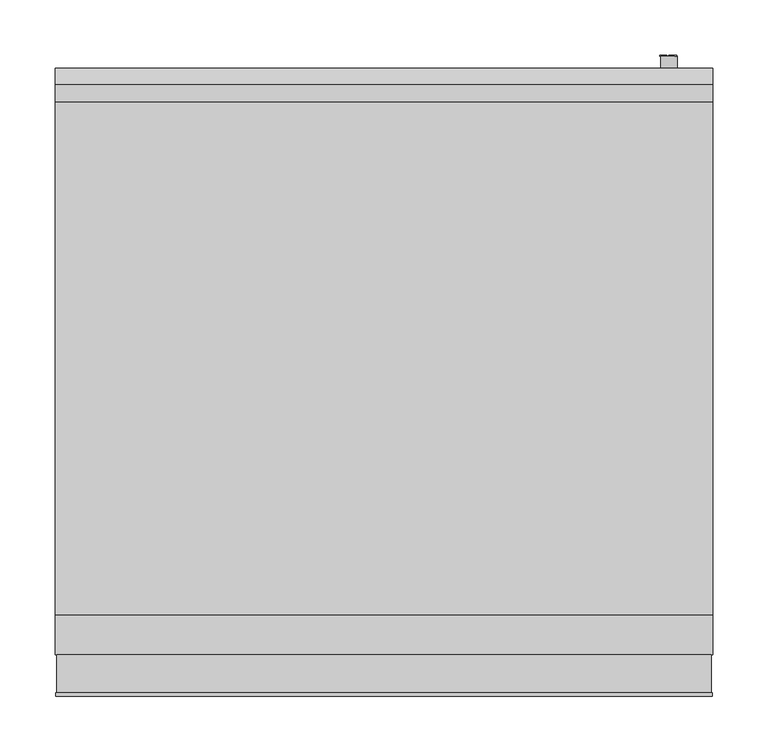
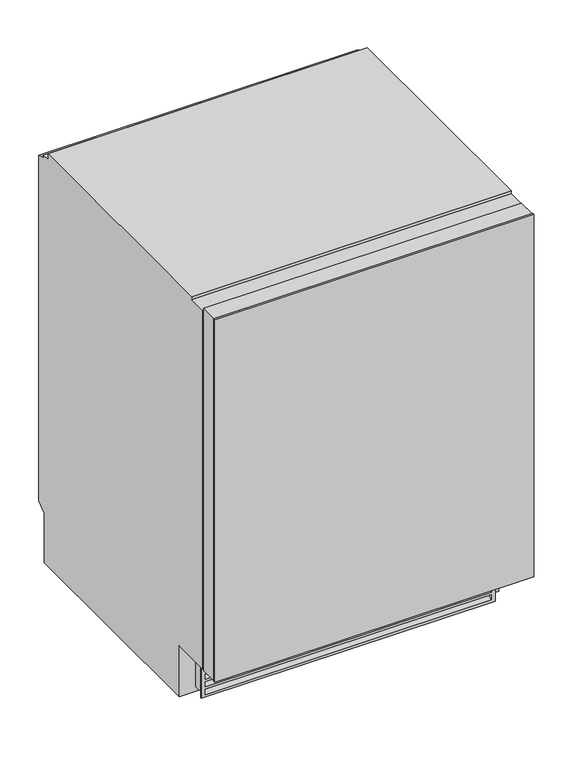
"""IFC4 building model written with IfcOpenShell, lengths in millimetres: proxy geometry, 12497050_GB_KWT6322UG-1 : 36632202_GB_12497050_KWT6322UG-1."""

from ifc_helpers import new_model, si_unit, point, frame, frame_2d, origin, origin_with_axes, place, context, project, spatial, polyline, circle_curve, ellipse_curve, trimmed, segment, composite_curve, outline, extrude, faceted_brep, source, transform, mapped, element, save
from ifc_brep_helpers import plane_surface, revolved_surface, advanced_brep


def specialty_equipment_e1f332ee(model_context):
    return source(origin(), model_context, "Body", "SolidModel", [
        extrude(outline(composite_curve([segment(polyline([(376.6, -231.5), (376.6, -246.5), (367.2, -246.5), (367.2, -226.5), (371.6, -226.5)]), True, "CONTINUOUS"), segment(trimmed(circle_curve(frame_2d((371.6, -231.5)), 5.0), [point((371.6, -226.5))], [point((376.6, -231.5))], False, "CARTESIAN"), True, "CONTINUOUS")], self_intersect=False)), frame((0.0, 44.0, 0.0), z_axis=(0.0, 1.0, 0.0), x_axis=(0.0, 0.0, 1.0)), (0.0, 0.0, 1.0), 329.5),
        extrude(outline(composite_curve([segment(polyline([(376.6, -59.5), (376.6, -69.5)]), True, "CONTINUOUS"), segment(trimmed(circle_curve(frame_2d((371.6, -69.5)), 5.0), [point((376.6, -69.5))], [point((371.6, -74.5))], False, "CARTESIAN"), True, "CONTINUOUS"), segment(polyline([(371.6, -74.5), (367.2, -74.5), (367.2, -54.5), (371.6, -54.5)]), True, "CONTINUOUS"), segment(trimmed(circle_curve(frame_2d((371.6, -59.5)), 5.0), [point((371.6, -54.5))], [point((376.6, -59.5))], False, "CARTESIAN"), True, "CONTINUOUS")], self_intersect=False)), frame((0.0, 44.0, 0.0), z_axis=(0.0, 1.0, 0.0), x_axis=(0.0, 0.0, 1.0)), (0.0, 0.0, 1.0), 329.5),
        extrude(outline(composite_curve([segment(polyline([(376.6, -102.5), (376.6, -112.5)]), True, "CONTINUOUS"), segment(trimmed(circle_curve(frame_2d((371.6, -112.5)), 5.0), [point((376.6, -112.5))], [point((371.6, -117.5))], False, "CARTESIAN"), True, "CONTINUOUS"), segment(polyline([(371.6, -117.5), (367.2, -117.5), (367.2, -97.5), (371.6, -97.5)]), True, "CONTINUOUS"), segment(trimmed(circle_curve(frame_2d((371.6, -102.5)), 5.0), [point((371.6, -97.5))], [point((376.6, -102.5))], False, "CARTESIAN"), True, "CONTINUOUS")], self_intersect=False)), frame((0.0, 44.0, 0.0), z_axis=(0.0, 1.0, 0.0), x_axis=(0.0, 0.0, 1.0)), (0.0, 0.0, 1.0), 329.5),
        extrude(outline(composite_curve([segment(polyline([(376.6, -145.5), (376.6, -155.5)]), True, "CONTINUOUS"), segment(trimmed(circle_curve(frame_2d((371.6, -155.5)), 5.0), [point((376.6, -155.5))], [point((371.6, -160.5))], False, "CARTESIAN"), True, "CONTINUOUS"), segment(polyline([(371.6, -160.5), (367.2, -160.5), (367.2, -140.5), (371.6, -140.5)]), True, "CONTINUOUS"), segment(trimmed(circle_curve(frame_2d((371.6, -145.5)), 5.0), [point((371.6, -140.5))], [point((376.6, -145.5))], False, "CARTESIAN"), True, "CONTINUOUS")], self_intersect=False)), frame((0.0, 44.0, 0.0), z_axis=(0.0, 1.0, 0.0), x_axis=(0.0, 0.0, 1.0)), (0.0, 0.0, 1.0), 329.5),
        extrude(outline(composite_curve([segment(polyline([(376.6, -188.5), (376.6, -198.5)]), True, "CONTINUOUS"), segment(trimmed(circle_curve(frame_2d((371.6, -198.5)), 5.0), [point((376.6, -198.5))], [point((371.6, -203.5))], False, "CARTESIAN"), True, "CONTINUOUS"), segment(polyline([(371.6, -203.5), (367.2, -203.5), (367.2, -183.5), (371.6, -183.5)]), True, "CONTINUOUS"), segment(trimmed(circle_curve(frame_2d((371.6, -188.5)), 5.0), [point((371.6, -183.5))], [point((376.6, -188.5))], False, "CARTESIAN"), True, "CONTINUOUS")], self_intersect=False)), frame((0.0, 44.0, 0.0), z_axis=(0.0, 1.0, 0.0), x_axis=(0.0, 0.0, 1.0)), (0.0, 0.0, 1.0), 329.5),
        extrude(outline(composite_curve([segment(polyline([(376.6, 69.5), (376.6, 59.5)]), True, "CONTINUOUS"), segment(trimmed(circle_curve(frame_2d((371.6, 59.5)), 5.0), [point((376.6, 59.5))], [point((371.6, 54.5))], False, "CARTESIAN"), True, "CONTINUOUS"), segment(polyline([(371.6, 54.5), (367.2, 54.5), (367.2, 74.5), (371.6, 74.5)]), True, "CONTINUOUS"), segment(trimmed(circle_curve(frame_2d((371.6, 69.5)), 5.0), [point((371.6, 74.5))], [point((376.6, 69.5))], False, "CARTESIAN"), True, "CONTINUOUS")], self_intersect=False)), frame((0.0, 44.0, 0.0), z_axis=(0.0, 1.0, 0.0), x_axis=(0.0, 0.0, 1.0)), (0.0, 0.0, 1.0), 329.5),
        extrude(outline(composite_curve([segment(polyline([(376.6, 112.5), (376.6, 102.5)]), True, "CONTINUOUS"), segment(trimmed(circle_curve(frame_2d((371.6, 102.5)), 5.0), [point((376.6, 102.5))], [point((371.6, 97.5))], False, "CARTESIAN"), True, "CONTINUOUS"), segment(polyline([(371.6, 97.5), (367.2, 97.5), (367.2, 117.5), (371.6, 117.5)]), True, "CONTINUOUS"), segment(trimmed(circle_curve(frame_2d((371.6, 112.5)), 5.0), [point((371.6, 117.5))], [point((376.6, 112.5))], False, "CARTESIAN"), True, "CONTINUOUS")], self_intersect=False)), frame((0.0, 44.0, 0.0), z_axis=(0.0, 1.0, 0.0), x_axis=(0.0, 0.0, 1.0)), (0.0, 0.0, 1.0), 329.5),
        extrude(outline(composite_curve([segment(polyline([(376.6, 155.5), (376.6, 145.5)]), True, "CONTINUOUS"), segment(trimmed(circle_curve(frame_2d((371.6, 145.5)), 5.0), [point((376.6, 145.5))], [point((371.6, 140.5))], False, "CARTESIAN"), True, "CONTINUOUS"), segment(polyline([(371.6, 140.5), (367.2, 140.5), (367.2, 160.5), (371.6, 160.5)]), True, "CONTINUOUS"), segment(trimmed(circle_curve(frame_2d((371.6, 155.5)), 5.0), [point((371.6, 160.5))], [point((376.6, 155.5))], False, "CARTESIAN"), True, "CONTINUOUS")], self_intersect=False)), frame((0.0, 44.0, 0.0), z_axis=(0.0, 1.0, 0.0), x_axis=(0.0, 0.0, 1.0)), (0.0, 0.0, 1.0), 329.5),
        extrude(outline(composite_curve([segment(polyline([(376.6, 198.5), (376.6, 188.5)]), True, "CONTINUOUS"), segment(trimmed(circle_curve(frame_2d((371.6, 188.5)), 5.0), [point((376.6, 188.5))], [point((371.6, 183.5))], False, "CARTESIAN"), True, "CONTINUOUS"), segment(polyline([(371.6, 183.5), (367.2, 183.5), (367.2, 203.5), (371.6, 203.5)]), True, "CONTINUOUS"), segment(trimmed(circle_curve(frame_2d((371.6, 198.5)), 5.0), [point((371.6, 203.5))], [point((376.6, 198.5))], False, "CARTESIAN"), True, "CONTINUOUS")], self_intersect=False)), frame((0.0, 44.0, 0.0), z_axis=(0.0, 1.0, 0.0), x_axis=(0.0, 0.0, 1.0)), (0.0, 0.0, 1.0), 329.5),
        extrude(outline(composite_curve([segment(trimmed(circle_curve(frame_2d((371.6, 231.5)), 5.0), [point((376.6, 231.5))], [point((371.6, 226.5))], False, "CARTESIAN"), True, "CONTINUOUS"), segment(polyline([(371.6, 226.5), (367.2, 226.5), (367.2, 246.5), (376.6, 246.5), (376.6, 231.5)]), True, "CONTINUOUS")], self_intersect=False)), frame((0.0, 44.0, 0.0), z_axis=(0.0, 1.0, 0.0), x_axis=(0.0, 0.0, 1.0)), (0.0, 0.0, 1.0), 329.5),
        extrude(outline(composite_curve([segment(polyline([(376.6, -16.5), (376.6, -26.5)]), True, "CONTINUOUS"), segment(trimmed(circle_curve(frame_2d((371.6, -26.5)), 5.0), [point((376.6, -26.5))], [point((371.6, -31.5))], False, "CARTESIAN"), True, "CONTINUOUS"), segment(polyline([(371.6, -31.5), (367.2, -31.5), (367.2, -11.5), (371.6, -11.5)]), True, "CONTINUOUS"), segment(trimmed(circle_curve(frame_2d((371.6, -16.5)), 5.0), [point((371.6, -11.5))], [point((376.6, -16.5))], False, "CARTESIAN"), True, "CONTINUOUS")], self_intersect=False)), frame((0.0, 44.0, 0.0), z_axis=(0.0, 1.0, 0.0), x_axis=(0.0, 0.0, 1.0)), (0.0, 0.0, 1.0), 329.5),
        extrude(outline(composite_curve([segment(polyline([(376.6, 26.5), (376.6, 16.5)]), True, "CONTINUOUS"), segment(trimmed(circle_curve(frame_2d((371.6, 16.5)), 5.0), [point((376.6, 16.5))], [point((371.6, 11.5))], False, "CARTESIAN"), True, "CONTINUOUS"), segment(polyline([(371.6, 11.5), (367.2, 11.5), (367.2, 31.5), (371.6, 31.5)]), True, "CONTINUOUS"), segment(trimmed(circle_curve(frame_2d((371.6, 26.5)), 5.0), [point((371.6, 31.5))], [point((376.6, 26.5))], False, "CARTESIAN"), True, "CONTINUOUS")], self_intersect=False)), frame((0.0, 44.0, 0.0), z_axis=(0.0, 1.0, 0.0), x_axis=(0.0, 0.0, 1.0)), (0.0, 0.0, 1.0), 329.5),
        extrude(outline(composite_curve([segment(trimmed(circle_curve(frame_2d((39.0, 364.2)), 5.0), [point((44.0, 364.2))], [point((39.0, 359.2))], False, "CARTESIAN"), True, "CONTINUOUS"), segment(trimmed(circle_curve(frame_2d((39.0, 364.2)), 5.0), [point((39.0, 359.2))], [point((34.0, 364.2))], False, "CARTESIAN"), True, "CONTINUOUS"), segment(polyline([(34.0, 364.2), (34.0, 380.2)]), True, "CONTINUOUS"), segment(trimmed(circle_curve(frame_2d((39.0, 380.2)), 5.0), [point((34.0, 380.2))], [point((39.0, 385.2))], False, "CARTESIAN"), True, "CONTINUOUS"), segment(trimmed(circle_curve(frame_2d((39.0, 380.2)), 5.0), [point((39.0, 385.2))], [point((44.0, 380.2))], False, "CARTESIAN"), True, "CONTINUOUS"), segment(polyline([(44.0, 380.2), (44.0, 364.2)]), True, "CONTINUOUS")], self_intersect=False)), frame((-246.5, 0.0, 0.0), z_axis=(1.0, 0.0, 0.0), x_axis=(0.0, 1.0, 0.0)), (0.0, 0.0, 1.0), 493.0),
        extrude(outline(composite_curve([segment(trimmed(circle_curve(frame_2d((378.5, 364.2)), 5.0), [point((383.5, 364.2))], [point((378.5, 359.2))], False, "CARTESIAN"), True, "CONTINUOUS"), segment(trimmed(circle_curve(frame_2d((378.5, 364.2)), 5.0), [point((378.5, 359.2))], [point((373.5, 364.2))], False, "CARTESIAN"), True, "CONTINUOUS"), segment(polyline([(373.5, 364.2), (373.5, 380.2)]), True, "CONTINUOUS"), segment(trimmed(circle_curve(frame_2d((378.5, 380.2)), 5.0), [point((373.5, 380.2))], [point((378.5, 385.2))], False, "CARTESIAN"), True, "CONTINUOUS"), segment(trimmed(circle_curve(frame_2d((378.5, 380.2)), 5.0), [point((378.5, 385.2))], [point((383.5, 380.2))], False, "CARTESIAN"), True, "CONTINUOUS"), segment(polyline([(383.5, 380.2), (383.5, 364.2)]), True, "CONTINUOUS")], self_intersect=False)), frame((-246.5, 0.0, 0.0), z_axis=(1.0, 0.0, 0.0), x_axis=(0.0, 1.0, 0.0)), (0.0, 0.0, 1.0), 493.0),
        extrude(outline(composite_curve([segment(trimmed(circle_curve(frame_2d((378.5, 609.2)), 5.0), [point((383.5, 609.2))], [point((378.5, 604.2))], False, "CARTESIAN"), True, "CONTINUOUS"), segment(trimmed(circle_curve(frame_2d((378.5, 609.2)), 5.0), [point((378.5, 604.2))], [point((373.5, 609.2))], False, "CARTESIAN"), True, "CONTINUOUS"), segment(polyline([(373.5, 609.2), (373.5, 625.2)]), True, "CONTINUOUS"), segment(trimmed(circle_curve(frame_2d((378.5, 625.2)), 5.0), [point((373.5, 625.2))], [point((378.5, 630.2))], False, "CARTESIAN"), True, "CONTINUOUS"), segment(trimmed(circle_curve(frame_2d((378.5, 625.2)), 5.0), [point((378.5, 630.2))], [point((383.5, 625.2))], False, "CARTESIAN"), True, "CONTINUOUS"), segment(polyline([(383.5, 625.2), (383.5, 609.2)]), True, "CONTINUOUS")], self_intersect=False)), frame((-246.5, 0.0, 0.0), z_axis=(1.0, 0.0, 0.0), x_axis=(0.0, 1.0, 0.0)), (0.0, 0.0, 1.0), 493.0),
        extrude(outline(composite_curve([segment(trimmed(circle_curve(frame_2d((39.0, 609.2)), 5.0), [point((44.0, 609.2))], [point((39.0, 604.2))], False, "CARTESIAN"), True, "CONTINUOUS"), segment(trimmed(circle_curve(frame_2d((39.0, 609.2)), 5.0), [point((39.0, 604.2))], [point((34.0, 609.2))], False, "CARTESIAN"), True, "CONTINUOUS"), segment(polyline([(34.0, 609.2), (34.0, 625.2)]), True, "CONTINUOUS"), segment(trimmed(circle_curve(frame_2d((39.0, 625.2)), 5.0), [point((34.0, 625.2))], [point((39.0, 630.2))], False, "CARTESIAN"), True, "CONTINUOUS"), segment(trimmed(circle_curve(frame_2d((39.0, 625.2)), 5.0), [point((39.0, 630.2))], [point((44.0, 625.2))], False, "CARTESIAN"), True, "CONTINUOUS"), segment(polyline([(44.0, 625.2), (44.0, 609.2)]), True, "CONTINUOUS")], self_intersect=False)), frame((-246.5, 0.0, 0.0), z_axis=(1.0, 0.0, 0.0), x_axis=(0.0, 1.0, 0.0)), (0.0, 0.0, 1.0), 493.0),
        extrude(outline(composite_curve([segment(polyline([(281.6, -231.5), (281.6, -246.5), (272.2, -246.5), (272.2, -226.5), (276.6, -226.5)]), True, "CONTINUOUS"), segment(trimmed(circle_curve(frame_2d((276.6, -231.5)), 5.0), [point((276.6, -226.5))], [point((281.6, -231.5))], False, "CARTESIAN"), True, "CONTINUOUS")], self_intersect=False)), frame((0.0, 44.0, 0.0), z_axis=(0.0, 1.0, 0.0), x_axis=(0.0, 0.0, 1.0)), (0.0, 0.0, 1.0), 425.5),
        extrude(outline(composite_curve([segment(polyline([(281.6, -59.5), (281.6, -69.5)]), True, "CONTINUOUS"), segment(trimmed(circle_curve(frame_2d((276.6, -69.5)), 5.0), [point((281.6, -69.5))], [point((276.6, -74.5))], False, "CARTESIAN"), True, "CONTINUOUS"), segment(polyline([(276.6, -74.5), (272.2, -74.5), (272.2, -54.5), (276.6, -54.5)]), True, "CONTINUOUS"), segment(trimmed(circle_curve(frame_2d((276.6, -59.5)), 5.0), [point((276.6, -54.5))], [point((281.6, -59.5))], False, "CARTESIAN"), True, "CONTINUOUS")], self_intersect=False)), frame((0.0, 44.0, 0.0), z_axis=(0.0, 1.0, 0.0), x_axis=(0.0, 0.0, 1.0)), (0.0, 0.0, 1.0), 425.5),
        extrude(outline(composite_curve([segment(polyline([(281.6, -102.5), (281.6, -112.5)]), True, "CONTINUOUS"), segment(trimmed(circle_curve(frame_2d((276.6, -112.5)), 5.0), [point((281.6, -112.5))], [point((276.6, -117.5))], False, "CARTESIAN"), True, "CONTINUOUS"), segment(polyline([(276.6, -117.5), (272.2, -117.5), (272.2, -97.5), (276.6, -97.5)]), True, "CONTINUOUS"), segment(trimmed(circle_curve(frame_2d((276.6, -102.5)), 5.0), [point((276.6, -97.5))], [point((281.6, -102.5))], False, "CARTESIAN"), True, "CONTINUOUS")], self_intersect=False)), frame((0.0, 44.0, 0.0), z_axis=(0.0, 1.0, 0.0), x_axis=(0.0, 0.0, 1.0)), (0.0, 0.0, 1.0), 425.5),
        extrude(outline(composite_curve([segment(polyline([(281.6, -145.5), (281.6, -155.5)]), True, "CONTINUOUS"), segment(trimmed(circle_curve(frame_2d((276.6, -155.5)), 5.0), [point((281.6, -155.5))], [point((276.6, -160.5))], False, "CARTESIAN"), True, "CONTINUOUS"), segment(polyline([(276.6, -160.5), (272.2, -160.5), (272.2, -140.5), (276.6, -140.5)]), True, "CONTINUOUS"), segment(trimmed(circle_curve(frame_2d((276.6, -145.5)), 5.0), [point((276.6, -140.5))], [point((281.6, -145.5))], False, "CARTESIAN"), True, "CONTINUOUS")], self_intersect=False)), frame((0.0, 44.0, 0.0), z_axis=(0.0, 1.0, 0.0), x_axis=(0.0, 0.0, 1.0)), (0.0, 0.0, 1.0), 425.5),
        extrude(outline(composite_curve([segment(polyline([(281.6, -188.5), (281.6, -198.5)]), True, "CONTINUOUS"), segment(trimmed(circle_curve(frame_2d((276.6, -198.5)), 5.0), [point((281.6, -198.5))], [point((276.6, -203.5))], False, "CARTESIAN"), True, "CONTINUOUS"), segment(polyline([(276.6, -203.5), (272.2, -203.5), (272.2, -183.5), (276.6, -183.5)]), True, "CONTINUOUS"), segment(trimmed(circle_curve(frame_2d((276.6, -188.5)), 5.0), [point((276.6, -183.5))], [point((281.6, -188.5))], False, "CARTESIAN"), True, "CONTINUOUS")], self_intersect=False)), frame((0.0, 44.0, 0.0), z_axis=(0.0, 1.0, 0.0), x_axis=(0.0, 0.0, 1.0)), (0.0, 0.0, 1.0), 425.5),
        extrude(outline(composite_curve([segment(polyline([(281.6, 69.5), (281.6, 59.5)]), True, "CONTINUOUS"), segment(trimmed(circle_curve(frame_2d((276.6, 59.5)), 5.0), [point((281.6, 59.5))], [point((276.6, 54.5))], False, "CARTESIAN"), True, "CONTINUOUS"), segment(polyline([(276.6, 54.5), (272.2, 54.5), (272.2, 74.5), (276.6, 74.5)]), True, "CONTINUOUS"), segment(trimmed(circle_curve(frame_2d((276.6, 69.5)), 5.0), [point((276.6, 74.5))], [point((281.6, 69.5))], False, "CARTESIAN"), True, "CONTINUOUS")], self_intersect=False)), frame((0.0, 44.0, 0.0), z_axis=(0.0, 1.0, 0.0), x_axis=(0.0, 0.0, 1.0)), (0.0, 0.0, 1.0), 425.5),
        extrude(outline(composite_curve([segment(polyline([(281.6, 112.5), (281.6, 102.5)]), True, "CONTINUOUS"), segment(trimmed(circle_curve(frame_2d((276.6, 102.5)), 5.0), [point((281.6, 102.5))], [point((276.6, 97.5))], False, "CARTESIAN"), True, "CONTINUOUS"), segment(polyline([(276.6, 97.5), (272.2, 97.5), (272.2, 117.5), (276.6, 117.5)]), True, "CONTINUOUS"), segment(trimmed(circle_curve(frame_2d((276.6, 112.5)), 5.0), [point((276.6, 117.5))], [point((281.6, 112.5))], False, "CARTESIAN"), True, "CONTINUOUS")], self_intersect=False)), frame((0.0, 44.0, 0.0), z_axis=(0.0, 1.0, 0.0), x_axis=(0.0, 0.0, 1.0)), (0.0, 0.0, 1.0), 425.5),
        extrude(outline(composite_curve([segment(polyline([(281.6, 155.5), (281.6, 145.5)]), True, "CONTINUOUS"), segment(trimmed(circle_curve(frame_2d((276.6, 145.5)), 5.0), [point((281.6, 145.5))], [point((276.6, 140.5))], False, "CARTESIAN"), True, "CONTINUOUS"), segment(polyline([(276.6, 140.5), (272.2, 140.5), (272.2, 160.5), (276.6, 160.5)]), True, "CONTINUOUS"), segment(trimmed(circle_curve(frame_2d((276.6, 155.5)), 5.0), [point((276.6, 160.5))], [point((281.6, 155.5))], False, "CARTESIAN"), True, "CONTINUOUS")], self_intersect=False)), frame((0.0, 44.0, 0.0), z_axis=(0.0, 1.0, 0.0), x_axis=(0.0, 0.0, 1.0)), (0.0, 0.0, 1.0), 425.5),
        extrude(outline(composite_curve([segment(polyline([(281.6, 198.5), (281.6, 188.5)]), True, "CONTINUOUS"), segment(trimmed(circle_curve(frame_2d((276.6, 188.5)), 5.0), [point((281.6, 188.5))], [point((276.6, 183.5))], False, "CARTESIAN"), True, "CONTINUOUS"), segment(polyline([(276.6, 183.5), (272.2, 183.5), (272.2, 203.5), (276.6, 203.5)]), True, "CONTINUOUS"), segment(trimmed(circle_curve(frame_2d((276.6, 198.5)), 5.0), [point((276.6, 203.5))], [point((281.6, 198.5))], False, "CARTESIAN"), True, "CONTINUOUS")], self_intersect=False)), frame((0.0, 44.0, 0.0), z_axis=(0.0, 1.0, 0.0), x_axis=(0.0, 0.0, 1.0)), (0.0, 0.0, 1.0), 425.5),
        extrude(outline(composite_curve([segment(trimmed(circle_curve(frame_2d((276.6, 231.5)), 5.0), [point((281.6, 231.5))], [point((276.6, 226.5))], False, "CARTESIAN"), True, "CONTINUOUS"), segment(polyline([(276.6, 226.5), (272.2, 226.5), (272.2, 246.5), (281.6, 246.5), (281.6, 231.5)]), True, "CONTINUOUS")], self_intersect=False)), frame((0.0, 44.0, 0.0), z_axis=(0.0, 1.0, 0.0), x_axis=(0.0, 0.0, 1.0)), (0.0, 0.0, 1.0), 425.5),
        extrude(outline(composite_curve([segment(polyline([(281.6, -16.5), (281.6, -26.5)]), True, "CONTINUOUS"), segment(trimmed(circle_curve(frame_2d((276.6, -26.5)), 5.0), [point((281.6, -26.5))], [point((276.6, -31.5))], False, "CARTESIAN"), True, "CONTINUOUS"), segment(polyline([(276.6, -31.5), (272.2, -31.5), (272.2, -11.5), (276.6, -11.5)]), True, "CONTINUOUS"), segment(trimmed(circle_curve(frame_2d((276.6, -16.5)), 5.0), [point((276.6, -11.5))], [point((281.6, -16.5))], False, "CARTESIAN"), True, "CONTINUOUS")], self_intersect=False)), frame((0.0, 44.0, 0.0), z_axis=(0.0, 1.0, 0.0), x_axis=(0.0, 0.0, 1.0)), (0.0, 0.0, 1.0), 425.5),
        extrude(outline(composite_curve([segment(polyline([(281.6, 26.5), (281.6, 16.5)]), True, "CONTINUOUS"), segment(trimmed(circle_curve(frame_2d((276.6, 16.5)), 5.0), [point((281.6, 16.5))], [point((276.6, 11.5))], False, "CARTESIAN"), True, "CONTINUOUS"), segment(polyline([(276.6, 11.5), (272.2, 11.5), (272.2, 31.5), (276.6, 31.5)]), True, "CONTINUOUS"), segment(trimmed(circle_curve(frame_2d((276.6, 26.5)), 5.0), [point((276.6, 31.5))], [point((281.6, 26.5))], False, "CARTESIAN"), True, "CONTINUOUS")], self_intersect=False)), frame((0.0, 44.0, 0.0), z_axis=(0.0, 1.0, 0.0), x_axis=(0.0, 0.0, 1.0)), (0.0, 0.0, 1.0), 425.5),
        extrude(outline(polyline([(0.0, -5.4999999), (0.0, 0.0), (342.0, 0.0), (342.0, -5.4999999), (0.0, -5.4999999)])), frame((171.0, 51.2877454, 467.3059312), z_axis=(0.0, 0.2588190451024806, 0.9659258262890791), x_axis=(-1.0, 0.0, 0.0)), (0.0, 0.0, 1.0), 53.0),
        extrude(outline(polyline([(100.0, -297.0), (100.0, 297.0), (816.0, 297.0), (816.0, -297.0), (100.0, -297.0)]), holes=[polyline([(722.0, -243.5), (722.0, 243.5), (194.0, 243.5), (194.0, -243.5), (722.0, -243.5)])]), frame((0.0, 3.2, 0.0), z_axis=(0.0, 1.0, 0.0), x_axis=(0.0, 0.0, 1.0)), (0.0, 0.0, 1.0), 34.8),
        extrude(outline(polyline([(298.0, 3.2), (298.0, 0.0), (-298.0, 0.0), (-298.0, 3.2), (298.0, 3.2)])), frame((0.0, 0.0, 100.0), z_axis=(0.0, 0.0, 1.0), x_axis=(1.0, 0.0, 0.0)), (0.0, 0.0, 1.0), 717.0),
        extrude(outline(polyline([(35.0, 265.8772603), (45.045631, 265.8772603), (45.045631, 258.656963), (43.7899271, 258.656963), (43.7899271, 264.6215564), (40.8076304, 264.6215564), (40.8076304, 258.970889), (39.5519266, 258.970889), (39.5519266, 264.6215564), (36.2557039, 264.6215564), (36.2557039, 258.5), (35.0, 258.5), (35.0, 265.8772603)])), frame((0.0, 581.0, 0.0), z_axis=(0.0, 1.0, 0.0), x_axis=(0.0, 0.0, 1.0)), (0.0, 0.0, 1.0), 1.0),
        extrude(outline(polyline([(35.0, 256.6164442), (45.045631, 256.6164442), (45.045631, 255.3607403), (36.2557039, 255.3607403), (36.2557039, 250.3379248), (35.0, 250.3379248), (35.0, 256.6164442)])), frame((0.0, 581.0, 0.0), z_axis=(0.0, 1.0, 0.0), x_axis=(0.0, 0.0, 1.0)), (0.0, 0.0, 1.0), 1.0),
        extrude(outline(composite_curve([segment(trimmed(circle_curve(frame_2d((40.0, 258.5)), 7.5), [point((40.0, 251.0))], [point((40.0, 266.0))], False, "CARTESIAN"), True, "CONTINUOUS"), segment(trimmed(circle_curve(frame_2d((40.0, 258.5)), 7.5), [point((40.0, 266.0))], [point((40.0, 251.0))], False, "CARTESIAN"), True, "CONTINUOUS")], self_intersect=False)), frame((0.0, 551.0, 0.0), z_axis=(0.0, 1.0, 0.0), x_axis=(0.0, 0.0, 1.0)), (0.0, 0.0, 1.0), 30.0),
        faceted_brep([(275.0, 86.5, 9.0), (275.0, 86.5, 100.0), (275.0, 84.5, 100.0), (275.0, 84.5, 9.0), (-275.0, 86.5, 100.0), (-275.0, 86.5, 9.0), (-275.0, 84.5, 9.0), (-275.0, 84.5, 100.0), (267.3817033, 84.5, 24.0873949), (267.3817033, 84.5, 14.0873949), (-267.3817033, 84.5, 14.0873949), (-267.3817033, 84.5, 24.0873949), (267.3817033, 84.5, 39.0873949), (267.3817033, 84.5, 29.0873949), (-267.3817033, 84.5, 29.0873949), (-267.3817033, 84.5, 39.0873949), (267.3817033, 84.5, 54.0873949), (267.3817033, 84.5, 44.0873949), (-267.3817033, 84.5, 44.0873949), (-267.3817033, 84.5, 54.0873949), (267.3817033, 84.5, 69.0873949), (267.3817033, 84.5, 59.0873949), (-267.3817033, 84.5, 59.0873949), (-267.3817033, 84.5, 69.0873949), (267.3817033, 84.5, 84.0873949), (267.3817033, 84.5, 74.0873949), (-267.3817033, 84.5, 74.0873949), (-267.3817033, 84.5, 84.0873949), (270.0, 86.5, 15.0), (270.0, 86.5, 94.5), (-270.0, 86.5, 94.5), (-270.0, 86.5, 15.0), (-270.0, 110.5, 15.0), (270.0, 110.5, 15.0), (267.3817033, 110.5, 92.2927909), (267.3817033, 110.5, 94.5), (270.0, 110.5, 94.5), (-270.0, 110.5, 94.5), (-267.3817033, 110.5, 94.5), (-267.3817033, 110.5, 92.2927909), (267.3817033, 110.5, 32.2927909), (267.3817033, 110.5, 42.2927909), (-267.3817033, 110.5, 42.2927909), (-267.3817033, 110.5, 32.2927909), (267.3817033, 110.5, 47.2927909), (267.3817033, 110.5, 57.2927909), (-267.3817033, 110.5, 57.2927909), (-267.3817033, 110.5, 47.2927909), (267.3817033, 110.5, 62.2927909), (267.3817033, 110.5, 72.2927909), (-267.3817033, 110.5, 72.2927909), (-267.3817033, 110.5, 62.2927909), (267.3817033, 110.5, 77.2927909), (267.3817033, 110.5, 87.2927909), (-267.3817033, 110.5, 87.2927909), (-267.3817033, 110.5, 77.2927909), (267.3817033, 99.3707413, 94.5), (-267.3817033, 99.3707413, 94.5)], [[[0, 1, 2, 3]], [[4, 5, 6, 7]], [[2, 1, 4, 7]], [[3, 2, 7, 6], [8, 9, 10, 11], [12, 13, 14, 15], [16, 17, 18, 19], [20, 21, 22, 23], [24, 25, 26, 27]], [[5, 0, 3, 6]], [[1, 0, 5, 4], [28, 29, 30, 31]], [[28, 31, 32, 33]], [[34, 35, 36, 33, 32, 37, 38, 39], [40, 41, 42, 43], [44, 45, 46, 47], [48, 49, 50, 51], [52, 53, 54, 55]], [[35, 56, 57, 38, 37, 30, 29, 36]], [[8, 41, 40, 9]], [[12, 45, 44, 13]], [[16, 49, 48, 17]], [[20, 53, 52, 21]], [[34, 25, 24, 56, 35]], [[10, 43, 42, 11]], [[14, 47, 46, 15]], [[18, 51, 50, 19]], [[22, 55, 54, 23]], [[26, 39, 38, 57, 27]], [[9, 40, 43, 10]], [[41, 8, 11, 42]], [[13, 44, 47, 14]], [[45, 12, 15, 46]], [[17, 48, 51, 18]], [[49, 16, 19, 50]], [[21, 52, 55, 22]], [[53, 20, 23, 54]], [[25, 34, 39, 26]], [[56, 24, 27, 57]], [[31, 30, 37, 32]], [[29, 28, 33, 36]]]),
        advanced_brep(
        [(298.5, 551.0, 2.5), (298.5, 551.0, 100.0), (298.5, 570.0, 114.0), (298.5, 570.0, 796.3), (298.5, 555.0, 802.0), (298.5, 555.0, 806.0), (298.5, 539.335479, 806.0), (298.5, 539.335479, 818.0), (298.5, 74.0, 818.0), (298.5, 74.0, 812.0), (298.5, 38.0, 812.0), (298.5, 38.0, 103.5), (298.5, 114.0, 103.5), (298.5, 114.0, 2.5), (-298.5, 551.0, 2.5), (-298.5, 114.0, 2.5), (-298.5, 114.0, 103.5), (-298.5, 38.0, 103.5), (-298.5, 38.0, 812.0), (-298.5, 74.0, 812.0), (-298.5, 74.0, 818.0), (-298.5, 539.335479, 818.0), (-298.5, 539.335479, 806.0), (-298.5, 555.0, 806.0), (-298.5, 555.0, 802.0), (-298.5, 570.0, 796.3), (-298.5, 570.0, 114.0), (-298.5, 551.0, 100.0), (251.0, 38.0, 733.0), (251.0, 38.0, 180.5), (-251.0, 38.0, 180.5), (-251.0, 38.0, 733.0), (251.0, 54.0, 733.0), (251.0, 65.0, 703.0), (251.0, 390.0, 703.0), (251.0, 390.0, 602.5), (251.0, 482.0, 602.5), (251.0, 482.0, 527.5), (251.0, 67.1557233, 527.5), (251.0, 49.8730004, 463.0), (251.0, 390.0, 463.0), (251.0, 390.0, 362.0), (251.0, 482.0, 362.0), (251.0, 482.0, 262.0), (251.0, 370.3, 262.0), (251.0, 344.0, 236.7), (251.0, 344.0, 180.5), (251.0, 345.0, 585.0), (251.0, 345.0, 612.2), (251.0, 69.0, 612.2), (251.0, 69.0, 585.0), (251.0, 345.0, 340.0), (251.0, 345.0, 367.2), (251.0, 69.0, 367.2), (251.0, 69.0, 340.0), (251.0, 345.0, 245.0), (251.0, 345.0, 272.2), (251.0, 69.0, 272.2), (251.0, 69.0, 245.0), (-251.0, 344.0, 180.5), (-251.0, 344.0, 236.7), (-251.0, 370.3, 262.0), (-251.0, 482.0, 262.0), (-251.0, 482.0, 362.0), (-251.0, 390.0, 362.0), (-251.0, 390.0, 463.0), (-251.0, 49.8730004, 463.0), (-251.0, 67.1557233, 527.5), (-251.0, 482.0, 527.5), (-251.0, 482.0, 602.5), (-251.0, 390.0, 602.5), (-251.0, 390.0, 703.0), (-251.0, 65.0, 703.0), (-251.0, 54.0, 733.0), (-251.0, 345.0, 612.2), (-251.0, 345.0, 585.0), (-251.0, 69.0, 585.0), (-251.0, 69.0, 612.2), (-251.0, 345.0, 367.2), (-251.0, 345.0, 340.0), (-251.0, 69.0, 340.0), (-251.0, 69.0, 367.2), (-251.0, 345.0, 272.2), (-251.0, 345.0, 245.0), (-251.0, 69.0, 245.0), (-251.0, 69.0, 272.2), (226.5, 344.0, 180.5), (226.5, 73.0, 180.5), (-226.5, 73.0, 180.5), (-226.5, 344.0, 180.5), (-226.5, 344.0, 173.0), (226.5, 344.0, 173.0), (224.1024288, 67.1557233, 527.5), (181.8975712, 67.1557233, 527.5), (166.1024288, 67.1557233, 527.5), (123.8975712, 67.1557233, 527.5), (108.1024288, 67.1557233, 527.5), (65.8975712, 67.1557233, 527.5), (50.1024288, 67.1557233, 527.5), (7.8975712, 67.1557233, 527.5), (-7.8975712, 67.1557233, 527.5), (-50.1024288, 67.1557233, 527.5), (-65.8975712, 67.1557233, 527.5), (-108.1024288, 67.1557233, 527.5), (-123.8975712, 67.1557233, 527.5), (-166.1024288, 67.1557233, 527.5), (-181.8975712, 67.1557233, 527.5), (-224.1024288, 67.1557233, 527.5), (171.5, 64.8781552, 519.0), (171.5, 50.9795725, 467.1297831), (-171.5, 50.9795725, 467.1297831), (-171.5, 64.8781552, 519.0), (224.1024288, 482.0, 527.5), (-224.1024288, 482.0, 527.5), (181.8975712, 482.0, 527.5), (166.1024288, 482.0, 527.5), (123.8975712, 482.0, 527.5), (108.1024288, 482.0, 527.5), (65.8975712, 482.0, 527.5), (50.1024288, 482.0, 527.5), (7.8975712, 482.0, 527.5), (-7.8975712, 482.0, 527.5), (-50.1024288, 482.0, 527.5), (-65.8975712, 482.0, 527.5), (-108.1024288, 482.0, 527.5), (-123.8975712, 482.0, 527.5), (-166.1024288, 482.0, 527.5), (-181.8975712, 482.0, 527.5), (171.5, 70.6737101, 517.4470857), (171.5, 56.7751274, 465.5768689), (-171.5, 56.7751274, 465.5768689), (-171.5, 70.6737101, 517.4470857), (-235.0, 345.0, 612.2), (-235.0, 345.0, 585.0), (-235.0, 345.0, 367.2), (-235.0, 345.0, 340.0), (-235.0, 345.0, 272.2), (-235.0, 345.0, 245.0), (235.0, 345.0, 612.2), (235.0, 345.0, 585.0), (235.0, 345.0, 367.2), (235.0, 345.0, 340.0), (235.0, 345.0, 272.2), (235.0, 345.0, 245.0), (-235.0, 69.0, 612.2), (-235.0, 69.0, 585.0), (-235.0, 69.0, 367.2), (-235.0, 69.0, 340.0), (-235.0, 69.0, 272.2), (-235.0, 69.0, 245.0), (235.0, 69.0, 612.2), (235.0, 69.0, 585.0), (235.0, 69.0, 367.2), (235.0, 69.0, 340.0), (235.0, 69.0, 272.2), (235.0, 69.0, 245.0), (226.5, 73.0, 173.0), (-226.5, 73.0, 173.0)],
        [
            (0, 1),
            (1, 2),
            (2, 3),
            (3, 4),
            (4, 5),
            (5, 6),
            (6, 7),
            (7, 8),
            (8, 9),
            (9, 10),
            (10, 11),
            (11, 12),
            (12, 13),
            (13, 0),
            (14, 15),
            (15, 16),
            (16, 17),
            (17, 18),
            (18, 19),
            (19, 20),
            (20, 21),
            (21, 22),
            (22, 23),
            (23, 24),
            (24, 25),
            (25, 26),
            (26, 27),
            (27, 14),
            (0, 14),
            (27, 1),
            (26, 2),
            (25, 3),
            (24, 4),
            (23, 5),
            (22, 6),
            (21, 7),
            (20, 8),
            (17, 11),
            (10, 18),
            (28, 29),
            (29, 30),
            (30, 31),
            (31, 28),
            (16, 12),
            (15, 13),
            (32, 33),
            (33, 34),
            (34, 35),
            (35, 36),
            (36, 37),
            (37, 38),
            (38, 39),
            (39, 40),
            (40, 41),
            (41, 42),
            (42, 43),
            (43, 44),
            (44, 45),
            (45, 46),
            (46, 29),
            (28, 32),
            (47, 48),
            (48, 49),
            (49, 50),
            (50, 47),
            (51, 52),
            (52, 53),
            (53, 54),
            (54, 51),
            (55, 56),
            (56, 57),
            (57, 58),
            (58, 55),
            (59, 60),
            (60, 61),
            (61, 62),
            (62, 63),
            (63, 64),
            (64, 65),
            (65, 66),
            (66, 67),
            (67, 68),
            (68, 69),
            (69, 70),
            (70, 71),
            (71, 72),
            (72, 73),
            (73, 31),
            (30, 59),
            (74, 75),
            (75, 76),
            (76, 77),
            (77, 74),
            (78, 79),
            (79, 80),
            (80, 81),
            (81, 78),
            (82, 83),
            (83, 84),
            (84, 85),
            (85, 82),
            (73, 32),
            (46, 86),
            (86, 87),
            (87, 88),
            (88, 89),
            (89, 59),
            (45, 60),
            (89, 90),
            (90, 91),
            (91, 86),
            (44, 61),
            (43, 62),
            (42, 63),
            (41, 64),
            (40, 65),
            (39, 66),
            (38, 92),
            (92, 93, ellipse_curve(frame((203.0, 75.8640721, 560.0), z_axis=(0.0, 0.9659258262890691, -0.25881904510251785), x_axis=(0.0, -0.2588190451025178, -0.9659258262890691)), 40.116952, 38.75)),
            (93, 94),
            (94, 95, ellipse_curve(frame((145.0, 75.8640721, 560.0), z_axis=(0.0, 0.9659258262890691, -0.25881904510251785), x_axis=(0.0, -0.2588190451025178, -0.9659258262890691)), 40.116952, 38.75)),
            (95, 96),
            (96, 97, ellipse_curve(frame((87.0, 75.8640721, 560.0), z_axis=(0.0, 0.9659258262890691, -0.25881904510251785), x_axis=(0.0, -0.2588190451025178, -0.9659258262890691)), 40.116952, 38.75)),
            (97, 98),
            (98, 99, ellipse_curve(frame((29.0, 75.8640721, 560.0), z_axis=(0.0, 0.9659258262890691, -0.25881904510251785), x_axis=(0.0, -0.2588190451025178, -0.9659258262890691)), 40.116952, 38.75)),
            (99, 100),
            (100, 101, ellipse_curve(frame((-29.0, 75.8640721, 560.0), z_axis=(0.0, 0.9659258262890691, -0.25881904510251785), x_axis=(0.0, -0.2588190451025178, -0.9659258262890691)), 40.116952, 38.75)),
            (101, 102),
            (102, 103, ellipse_curve(frame((-87.0, 75.8640721, 560.0), z_axis=(0.0, 0.9659258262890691, -0.25881904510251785), x_axis=(0.0, -0.2588190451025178, -0.9659258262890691)), 40.116952, 38.75)),
            (103, 104),
            (104, 105, ellipse_curve(frame((-145.0, 75.8640721, 560.0), z_axis=(0.0, 0.9659258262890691, -0.25881904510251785), x_axis=(0.0, -0.2588190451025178, -0.9659258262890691)), 40.116952, 38.75)),
            (105, 106),
            (106, 107, ellipse_curve(frame((-203.0, 75.8640721, 560.0), z_axis=(0.0, 0.9659258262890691, -0.25881904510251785), x_axis=(0.0, -0.2588190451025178, -0.9659258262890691)), 40.116952, 38.75)),
            (107, 67),
            (108, 109),
            (109, 110),
            (110, 111),
            (111, 108),
            (37, 112),
            (112, 92),
            (107, 113),
            (113, 68),
            (93, 114),
            (114, 115),
            (115, 94),
            (95, 116),
            (116, 117),
            (117, 96),
            (97, 118),
            (118, 119),
            (119, 98),
            (99, 120),
            (120, 121),
            (121, 100),
            (101, 122),
            (122, 123),
            (123, 102),
            (103, 124),
            (124, 125),
            (125, 104),
            (105, 126),
            (126, 127),
            (127, 106),
            (36, 69),
            (113, 127, circle_curve(frame((-203.0, 482.0, 560.0), z_axis=(0.0, -1.0, 0.0), x_axis=(1.0, 0.0, 0.0)), 38.75)),
            (126, 125, circle_curve(frame((-145.0, 482.0, 560.0), z_axis=(0.0, -1.0, 0.0), x_axis=(1.0, 0.0, 0.0)), 38.75)),
            (124, 123, circle_curve(frame((-87.0, 482.0, 560.0), z_axis=(0.0, -1.0, 0.0), x_axis=(1.0, 0.0, 0.0)), 38.75)),
            (122, 121, circle_curve(frame((-29.0, 482.0, 560.0), z_axis=(0.0, -1.0, 0.0), x_axis=(1.0, 0.0, 0.0)), 38.75)),
            (120, 119, circle_curve(frame((29.0, 482.0, 560.0), z_axis=(0.0, -1.0, 0.0), x_axis=(1.0, 0.0, 0.0)), 38.75)),
            (118, 117, circle_curve(frame((87.0, 482.0, 560.0), z_axis=(0.0, -1.0, 0.0), x_axis=(1.0, 0.0, 0.0)), 38.75)),
            (116, 115, circle_curve(frame((145.0, 482.0, 560.0), z_axis=(0.0, -1.0, 0.0), x_axis=(1.0, 0.0, 0.0)), 38.75)),
            (114, 112, circle_curve(frame((203.0, 482.0, 560.0), z_axis=(0.0, -1.0, 0.0), x_axis=(1.0, 0.0, 0.0)), 38.75)),
            (35, 70),
            (34, 71),
            (33, 72),
            (108, 128),
            (128, 129),
            (129, 109),
            (110, 130),
            (130, 131),
            (131, 111),
            (129, 130),
            (128, 131),
            (9, 19),
            (132, 133),
            (133, 75),
            (74, 132),
            (134, 135),
            (135, 79),
            (78, 134),
            (136, 137),
            (137, 83),
            (82, 136),
            (138, 48),
            (47, 139),
            (139, 138),
            (140, 52),
            (51, 141),
            (141, 140),
            (142, 56),
            (55, 143),
            (143, 142),
            (144, 77),
            (76, 145),
            (145, 144),
            (146, 81),
            (80, 147),
            (147, 146),
            (148, 85),
            (84, 149),
            (149, 148),
            (150, 151),
            (151, 50),
            (49, 150),
            (152, 153),
            (153, 54),
            (53, 152),
            (154, 155),
            (155, 58),
            (57, 154),
            (144, 132),
            (133, 145),
            (146, 134),
            (135, 147),
            (148, 136),
            (137, 149),
            (139, 151),
            (150, 138),
            (141, 153),
            (152, 140),
            (143, 155),
            (154, 142),
            (87, 156),
            (156, 157),
            (157, 88),
            (157, 90),
            (156, 91),
        ],
        [
            plane_surface(frame((298.5, 551.0, 2.5), z_axis=(1.0, 0.0, 0.0), x_axis=(0.0, 0.0, 1.0))),
            plane_surface(frame((-298.5, 551.0, 2.5), z_axis=(-1.0, 0.0, 0.0), x_axis=(0.0, 0.0, -1.0))),
            plane_surface(frame((298.5, 551.0, 2.5), z_axis=(0.0, 1.0, 0.0), x_axis=(-1.0, 0.0, 0.0))),
            plane_surface(frame((298.5, 551.0, 100.0), z_axis=(0.0, 0.5931990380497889, -0.8050558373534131), x_axis=(-1.0, 0.0, 0.0))),
            plane_surface(frame((298.5, 570.0, 114.0), z_axis=(0.0, 1.0, 0.0), x_axis=(-1.0, 0.0, 0.0))),
            plane_surface(frame((298.5, 570.0, 796.3), z_axis=(0.0, 0.35521776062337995, 0.9347835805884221), x_axis=(-1.0, 0.0, 0.0))),
            plane_surface(frame((298.5, 555.0, 802.0), z_axis=(0.0, 1.0, 0.0), x_axis=(-1.0, 0.0, 0.0))),
            plane_surface(frame((298.5, 555.0, 806.0), z_axis=(0.0, 0.0, 1.0), x_axis=(-1.0, 0.0, 0.0))),
            plane_surface(frame((298.5, 539.335479, 806.0), z_axis=(0.0, 1.0, 0.0), x_axis=(-1.0, 0.0, 0.0))),
            plane_surface(frame((298.5, 539.335479, 818.0), z_axis=(0.0, 0.0, 1.0), x_axis=(-1.0, 0.0, 0.0))),
            plane_surface(frame((298.5, 38.0, 818.0), z_axis=(0.0, -1.0, 0.0), x_axis=(-1.0, 0.0, 0.0))),
            plane_surface(frame((298.5, 38.0, 103.5), z_axis=(0.0, 0.0, -1.0), x_axis=(-1.0, 0.0, 0.0))),
            plane_surface(frame((298.5, 114.0, 103.5), z_axis=(0.0, -1.0, 0.0), x_axis=(-1.0, 0.0, 0.0))),
            plane_surface(frame((298.5, 114.0, 2.5), z_axis=(0.0, 0.0, -1.0), x_axis=(-1.0, 0.0, 0.0))),
            plane_surface(frame((251.0, 0.0, 733.0), z_axis=(-1.0, 0.0, 0.0), x_axis=(0.0, -1.0, 0.0))),
            plane_surface(frame((-251.0, 0.0, 733.0), z_axis=(1.0, 0.0, 0.0), x_axis=(0.0, 1.0, 0.0))),
            plane_surface(frame((251.0, 54.0, 733.0), z_axis=(0.0, 0.0, -1.0), x_axis=(-1.0, 0.0, 0.0))),
            plane_surface(frame((251.0, 0.0, 180.5), z_axis=(0.0, 0.0, 1.0), x_axis=(-1.0, 0.0, 0.0))),
            plane_surface(frame((251.0, 344.0, 180.5), z_axis=(0.0, -1.0, 0.0), x_axis=(-1.0, 0.0, 0.0))),
            plane_surface(frame((251.0, 344.0, 236.7), z_axis=(0.0, -0.6932729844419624, 0.7206750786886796), x_axis=(-1.0, 0.0, 0.0))),
            plane_surface(frame((251.0, 370.3, 262.0), z_axis=(0.0, 0.0, 1.0), x_axis=(-1.0, 0.0, 0.0))),
            plane_surface(frame((251.0, 482.0, 262.0), z_axis=(0.0, -1.0, 0.0), x_axis=(-1.0, 0.0, 0.0))),
            plane_surface(frame((251.0, 482.0, 362.0), z_axis=(0.0, 0.0, -1.0), x_axis=(-1.0, 0.0, 0.0))),
            plane_surface(frame((251.0, 390.0, 362.0), z_axis=(0.0, -1.0, 0.0), x_axis=(-1.0, 0.0, 0.0))),
            plane_surface(frame((251.0, 390.0, 463.0), z_axis=(0.0, 0.0, -1.0), x_axis=(-1.0, 0.0, 0.0))),
            plane_surface(frame((251.0, 49.8730004, 463.0), z_axis=(0.0, -0.9659258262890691, 0.25881904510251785), x_axis=(-1.0, 0.0, 0.0))),
            plane_surface(frame((251.0, 67.1557233, 527.5), z_axis=(0.0, 0.0, 1.0), x_axis=(-1.0, 0.0, 0.0))),
            plane_surface(frame((251.0, 482.0, 527.5), z_axis=(0.0, -1.0, 0.0), x_axis=(-1.0, 0.0, 0.0))),
            plane_surface(frame((251.0, 482.0, 602.5), z_axis=(0.0, 0.0, -1.0), x_axis=(-1.0, 0.0, 0.0))),
            plane_surface(frame((251.0, 390.0, 602.5), z_axis=(0.0, -1.0, 0.0), x_axis=(-1.0, 0.0, 0.0))),
            plane_surface(frame((251.0, 390.0, 703.0), z_axis=(0.0, 0.0, -1.0), x_axis=(-1.0, 0.0, 0.0))),
            plane_surface(frame((251.0, 65.0, 703.0), z_axis=(0.0, -0.9388763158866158, -0.34425464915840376), x_axis=(-1.0, 0.0, 0.0))),
            plane_surface(frame((171.5, 50.9795725, 467.1297831), z_axis=(-1.0, 0.0, 0.0), x_axis=(0.0, -0.25881904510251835, -0.965925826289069))),
            plane_surface(frame((-171.5, 50.9795725, 467.1297831), z_axis=(1.0, 0.0, 0.0), x_axis=(0.0, 0.25881904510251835, 0.965925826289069))),
            plane_surface(frame((171.5, 50.9795725, 467.1297831), z_axis=(0.0, 0.2588190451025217, 0.9659258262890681), x_axis=(-1.0, 0.0, 0.0))),
            plane_surface(frame((171.5, 56.7751274, 465.5768689), z_axis=(0.0, -0.9659258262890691, 0.2588190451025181), x_axis=(-1.0, 0.0, 0.0))),
            plane_surface(frame((171.5, 70.6737101, 517.4470857), z_axis=(0.0, -0.2588190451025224, -0.965925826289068), x_axis=(-1.0, 0.0, 0.0))),
            plane_surface(frame((298.5, 0.0, 812.0), z_axis=(0.0, 0.0, 1.0), x_axis=(-1.0, 0.0, 0.0))),
            plane_surface(frame((298.5, 74.0, 812.0), z_axis=(0.0, -1.0, 0.0), x_axis=(-1.0, 0.0, 0.0))),
            plane_surface(frame((-251.0, 345.0, 612.2), z_axis=(0.0, 1.0, 0.0), x_axis=(1.0, 0.0, 0.0))),
            plane_surface(frame((-251.0, 69.0, 612.2), z_axis=(0.0, -1.0, 0.0), x_axis=(-1.0, 0.0, 0.0))),
            plane_surface(frame((-235.0, 69.0, 612.2), z_axis=(0.0, 0.0, 1.0), x_axis=(0.0, 1.0, 0.0))),
            plane_surface(frame((-251.0, 69.0, 585.0), z_axis=(0.0, 0.0, -1.0), x_axis=(0.0, 1.0, 0.0))),
            plane_surface(frame((-235.0, 69.0, 585.0), z_axis=(1.0, 0.0, 0.0), x_axis=(0.0, 1.0, 0.0))),
            plane_surface(frame((-235.0, 69.0, 367.2), z_axis=(0.0, 0.0, 1.0), x_axis=(0.0, 1.0, 0.0))),
            plane_surface(frame((-251.0, 69.0, 340.0), z_axis=(0.0, 0.0, -1.0), x_axis=(0.0, 1.0, 0.0))),
            plane_surface(frame((-235.0, 69.0, 340.0), z_axis=(1.0, 0.0, 0.0), x_axis=(0.0, 1.0, 0.0))),
            plane_surface(frame((-235.0, 69.0, 272.2), z_axis=(0.0, 0.0, 1.0), x_axis=(0.0, 1.0, 0.0))),
            plane_surface(frame((-251.0, 69.0, 245.0), z_axis=(0.0, 0.0, -1.0), x_axis=(0.0, 1.0, 0.0))),
            plane_surface(frame((-235.0, 69.0, 245.0), z_axis=(1.0, 0.0, 0.0), x_axis=(0.0, 1.0, 0.0))),
            plane_surface(frame((235.0, 69.0, 612.2), z_axis=(-1.0, 0.0, 0.0), x_axis=(0.0, 1.0, 0.0))),
            plane_surface(frame((235.0, 69.0, 585.0), z_axis=(0.0, 0.0, -1.0), x_axis=(0.0, 1.0, 0.0))),
            plane_surface(frame((251.0, 69.0, 612.2), z_axis=(0.0, 0.0, 1.0), x_axis=(0.0, 1.0, 0.0))),
            plane_surface(frame((235.0, 69.0, 367.2), z_axis=(-1.0, 0.0, 0.0), x_axis=(0.0, 1.0, 0.0))),
            plane_surface(frame((235.0, 69.0, 340.0), z_axis=(0.0, 0.0, -1.0), x_axis=(0.0, 1.0, 0.0))),
            plane_surface(frame((251.0, 69.0, 367.2), z_axis=(0.0, 0.0, 1.0), x_axis=(0.0, 1.0, 0.0))),
            plane_surface(frame((235.0, 69.0, 272.2), z_axis=(-1.0, 0.0, 0.0), x_axis=(0.0, 1.0, 0.0))),
            plane_surface(frame((235.0, 69.0, 245.0), z_axis=(0.0, 0.0, -1.0), x_axis=(0.0, 1.0, 0.0))),
            plane_surface(frame((251.0, 69.0, 272.2), z_axis=(0.0, 0.0, 1.0), x_axis=(0.0, 1.0, 0.0))),
            revolved_surface(polyline([(67.75, 65.48104089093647, 560.0), (67.75, 482.0, 560.0)]), (29.0, 482.0, 560.0), (0.0, -1.0, 0.0)),
            revolved_surface(polyline([(125.75, 65.48104089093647, 560.0), (125.75, 482.0, 560.0)]), (87.0, 482.0, 560.0), (0.0, -1.0, 0.0)),
            revolved_surface(polyline([(183.75, 65.48104089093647, 560.0), (183.75, 482.0, 560.0)]), (145.0, 482.0, 560.0), (0.0, -1.0, 0.0)),
            revolved_surface(polyline([(241.75, 65.48104089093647, 560.0), (241.75, 482.0, 560.0)]), (203.0, 482.0, 560.0), (0.0, -1.0, 0.0)),
            revolved_surface(polyline([(-164.25, 65.48104089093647, 560.0), (-164.25, 482.0, 560.0)]), (-203.0, 482.0, 560.0), (0.0, -1.0, 0.0)),
            revolved_surface(polyline([(-106.25, 65.48104089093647, 560.0), (-106.25, 482.0, 560.0)]), (-145.0, 482.0, 560.0), (0.0, -1.0, 0.0)),
            revolved_surface(polyline([(-48.25, 65.48104089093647, 560.0), (-48.25, 482.0, 560.0)]), (-87.0, 482.0, 560.0), (0.0, -1.0, 0.0)),
            revolved_surface(polyline([(9.75, 65.48104089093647, 560.0), (9.75, 482.0, 560.0)]), (-29.0, 482.0, 560.0), (0.0, -1.0, 0.0)),
            plane_surface(frame((-226.5, 73.0, 180.5), z_axis=(0.0, 1.0, 0.0), x_axis=(-1.0, 0.0, 0.0))),
            plane_surface(frame((-226.5, 73.0, 180.5), z_axis=(1.0, 0.0, 0.0), x_axis=(0.0, 1.0, 0.0))),
            plane_surface(frame((-226.5, 73.0, 173.0), z_axis=(0.0, 0.0, 1.0), x_axis=(0.0, 1.0, 0.0))),
            plane_surface(frame((226.5, 73.0, 173.0), z_axis=(-1.0, 0.0, 0.0), x_axis=(0.0, 1.0, 0.0))),
        ],
        [
            (0, [[1, 2, 3, 4, 5, 6, 7, 8, 9, 10, 11, 12, 13, 14]]),
            (1, [[15, 16, 17, 18, 19, 20, 21, 22, 23, 24, 25, 26, 27, 28]]),
            (2, [[-1, 29, -28, 30]]),
            (3, [[-2, -30, -27, 31]]),
            (4, [[-3, -31, -26, 32]]),
            (5, [[-4, -32, -25, 33]]),
            (6, [[-5, -33, -24, 34]]),
            (7, [[-6, -34, -23, 35]]),
            (8, [[-7, -35, -22, 36]]),
            (9, [[-36, -21, 37, -8]]),
            (10, [[38, -11, 39, -18], [40, 41, 42, 43]]),
            (11, [[-12, -38, -17, 44]]),
            (12, [[-13, -44, -16, 45]]),
            (13, [[-14, -45, -15, -29]]),
            (14, [[46, 47, 48, 49, 50, 51, 52, 53, 54, 55, 56, 57, 58, 59, 60, -40, 61], [62, 63, 64, 65], [66, 67, 68, 69], [70, 71, 72, 73]]),
            (15, [[74, 75, 76, 77, 78, 79, 80, 81, 82, 83, 84, 85, 86, 87, 88, -42, 89], [90, 91, 92, 93], [94, 95, 96, 97], [98, 99, 100, 101]]),
            (16, [[102, -61, -43, -88]]),
            (17, [[-60, 103, 104, 105, 106, 107, -89, -41]]),
            (18, [[-59, 108, -74, -107, 109, 110, 111, -103]]),
            (19, [[-58, 112, -75, -108]]),
            (20, [[-57, 113, -76, -112]]),
            (21, [[-56, 114, -77, -113]]),
            (22, [[-55, 115, -78, -114]]),
            (23, [[-54, 116, -79, -115]]),
            (24, [[-53, 117, -80, -116]]),
            (25, [[-52, 118, 119, 120, 121, 122, 123, 124, 125, 126, 127, 128, 129, 130, 131, 132, 133, 134, -81, -117], [135, 136, 137, 138]]),
            (26, [[-51, 139, 140, -118]]),
            (26, [[-82, -134, 141, 142]]),
            (26, [[-120, 143, 144, 145]]),
            (26, [[-122, 146, 147, 148]]),
            (26, [[-124, 149, 150, 151]]),
            (26, [[-126, 152, 153, 154]]),
            (26, [[-128, 155, 156, 157]]),
            (26, [[-130, 158, 159, 160]]),
            (26, [[-132, 161, 162, 163]]),
            (27, [[-50, 164, -83, -142, 165, -162, 166, -159, 167, -156, 168, -153, 169, -150, 170, -147, 171, -144, 172, -139]]),
            (28, [[-49, 173, -84, -164]]),
            (29, [[-48, 174, -85, -173]]),
            (30, [[-47, 175, -86, -174]]),
            (31, [[-46, -102, -87, -175]]),
            (32, [[176, 177, 178, -135]]),
            (33, [[179, 180, 181, -137]]),
            (34, [[-178, 182, -179, -136]]),
            (35, [[-177, 183, -180, -182]]),
            (36, [[-176, -138, -181, -183]]),
            (37, [[184, -19, -39, -10]]),
            (38, [[-184, -9, -37, -20]]),
            (39, [[185, 186, -90, 187]]),
            (39, [[188, 189, -94, 190]]),
            (39, [[191, 192, -98, 193]]),
            (39, [[194, -62, 195, 196]]),
            (39, [[197, -66, 198, 199]]),
            (39, [[200, -70, 201, 202]]),
            (40, [[203, -92, 204, 205]]),
            (40, [[206, -96, 207, 208]]),
            (40, [[209, -100, 210, 211]]),
            (40, [[212, 213, -64, 214]]),
            (40, [[215, 216, -68, 217]]),
            (40, [[218, 219, -72, 220]]),
            (41, [[-187, -93, -203, 221]]),
            (42, [[-186, 222, -204, -91]]),
            (43, [[-185, -221, -205, -222]]),
            (44, [[-190, -97, -206, 223]]),
            (45, [[-189, 224, -207, -95]]),
            (46, [[-188, -223, -208, -224]]),
            (47, [[-193, -101, -209, 225]]),
            (48, [[-192, 226, -210, -99]]),
            (49, [[-191, -225, -211, -226]]),
            (50, [[-196, 227, -212, 228]]),
            (51, [[-195, -65, -213, -227]]),
            (52, [[-194, -228, -214, -63]]),
            (53, [[-199, 229, -215, 230]]),
            (54, [[-198, -69, -216, -229]]),
            (55, [[-197, -230, -217, -67]]),
            (56, [[-202, 231, -218, 232]]),
            (57, [[-201, -73, -219, -231]]),
            (58, [[-200, -232, -220, -71]]),
            (59, [[-169, -152, -125, -151]]),
            (60, [[-170, -149, -123, -148]]),
            (61, [[-171, -146, -121, -145]]),
            (62, [[-172, -143, -119, -140]]),
            (63, [[-165, -141, -133, -163]]),
            (64, [[-166, -161, -131, -160]]),
            (65, [[-167, -158, -129, -157]]),
            (66, [[-168, -155, -127, -154]]),
            (67, [[233, 234, 235, -105]]),
            (68, [[-235, 236, -109, -106]]),
            (69, [[-234, 237, -110, -236]]),
            (70, [[-233, -104, -111, -237]]),
        ],
    ),
        extrude(outline(composite_curve([segment(trimmed(circle_curve(frame_2d((-278.5, 497.0)), 16.0), [point((-294.5, 497.0))], [point((-262.5, 497.0))], False, "CARTESIAN"), True, "CONTINUOUS"), segment(trimmed(circle_curve(frame_2d((-278.5, 497.0)), 16.0), [point((-262.5, 497.0))], [point((-294.5, 497.0))], False, "CARTESIAN"), True, "CONTINUOUS")], self_intersect=False)), origin_with_axes(), (0.0, 0.0, 1.0), 2.5),
        extrude(outline(composite_curve([segment(trimmed(circle_curve(frame_2d((278.5, 497.0)), 16.0), [point((262.5, 497.0))], [point((294.5, 497.0))], False, "CARTESIAN"), True, "CONTINUOUS"), segment(trimmed(circle_curve(frame_2d((278.5, 497.0)), 16.0), [point((294.5, 497.0))], [point((262.5, 497.0))], False, "CARTESIAN"), True, "CONTINUOUS")], self_intersect=False)), origin_with_axes(), (0.0, 0.0, 1.0), 2.5),
        extrude(outline(composite_curve([segment(trimmed(circle_curve(frame_2d((-278.5, 136.0)), 16.0), [point((-294.5, 136.0))], [point((-262.5, 136.0))], False, "CARTESIAN"), True, "CONTINUOUS"), segment(trimmed(circle_curve(frame_2d((-278.5, 136.0)), 16.0), [point((-262.5, 136.0))], [point((-294.5, 136.0))], False, "CARTESIAN"), True, "CONTINUOUS")], self_intersect=False)), origin_with_axes(), (0.0, 0.0, 1.0), 2.5),
        extrude(outline(composite_curve([segment(trimmed(circle_curve(frame_2d((278.5, 136.0)), 16.0), [point((262.5, 136.0))], [point((294.5, 136.0))], False, "CARTESIAN"), True, "CONTINUOUS"), segment(trimmed(circle_curve(frame_2d((278.5, 136.0)), 16.0), [point((294.5, 136.0))], [point((262.5, 136.0))], False, "CARTESIAN"), True, "CONTINUOUS")], self_intersect=False)), origin_with_axes(), (0.0, 0.0, 1.0), 2.5),
    ])


if __name__ == "__main__":
    model = new_model("IFC4")
    model_context = context("Model", 3, world=origin())
    ifc_project = project(units=[si_unit("LENGTHUNIT", "METRE", prefix="MILLI")], contexts=[model_context])
    site = spatial("IfcSite", under=ifc_project)
    building = spatial("IfcBuilding", under=site)
    placement = place(None, origin())
    specialty_equipment_shape = specialty_equipment_e1f332ee(model_context)
    element("IfcBuildingElementProxy", 1, Name="12497050_GB_KWT6322UG-1 : 36632202_GB_12497050_KWT6322UG-1", ObjectType="12497050_GB_KWT6322UG-1 : 36632202_GB_12497050_KWT6322UG-1", at=placement, inside=building, context=model_context, shape_type="MappedRepresentation", body=[
        mapped(specialty_equipment_shape, transform((0.0, 0.0, 0.0), x_axis=(1.0, 0.0, 0.0), y_axis=(0.0, 1.0, 0.0), z_axis=(0.0, 0.0, 1.0))),
    ])
    save(model, "model.ifc")
